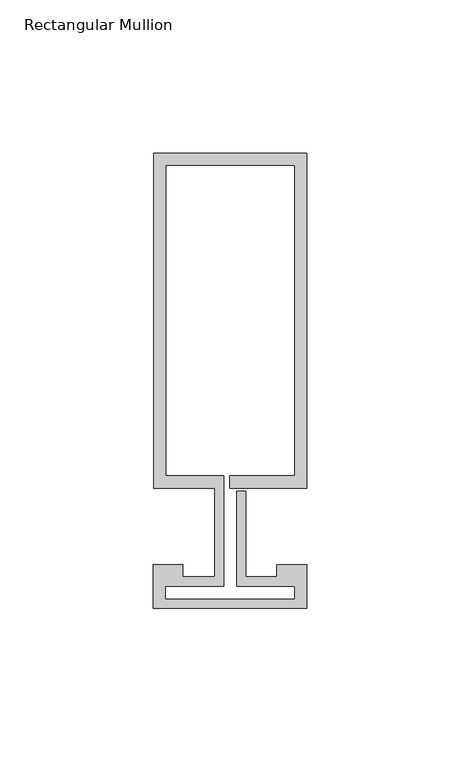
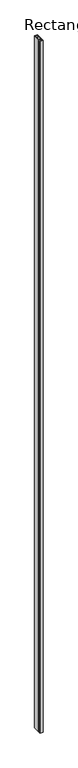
"""IFC4 building model written with IfcOpenShell, lengths in millimetres: member geometry, Rectangular Mullion : Reynaers_CW-50_Mullion-Transom_Horizontal_109.4mm_Facecap-02A."""

from ifc_helpers import new_model, si_unit, frame, origin, place, context, project, spatial, polyline, outline, extrude, source, transform, mapped, element, save


def rectangular_mullion_177b828d(model_context):
    return source(origin(), model_context, "Body", "SweptSolid", [
        extrude(outline(polyline([(-24.8004059, 121.9), (25.1995941, 121.9), (25.1995941, 12.5), (0.0, 12.5), (0.0, 16.5), (21.1995941, 16.5), (21.1995941, 117.9), (-20.8004059, 117.9), (-20.8004059, 16.5), (-1.9004059, 16.5), (-1.9004059, -19.5), (-20.994845, -19.5), (-20.994845, -23.7191338), (21.1995941, -23.7191338), (21.1995941, -19.5), (2.2995941, -19.5), (2.2995941, 11.5), (5.2995941, 11.5), (5.2995941, -16.5), (15.2996495, -16.5), (15.2996495, -12.5), (25.1995941, -12.5), (25.1995941, -26.8), (-24.994845, -26.8), (-24.994845, -12.5), (-15.2996495, -12.5), (-15.2996495, -16.5), (-4.9004059, -16.5), (-4.9004059, 12.5), (-24.8004059, 12.5), (-24.8004059, 121.9)])), frame((0.0, 0.0, -12000.0), z_axis=(0.0, 0.0, 1.0), x_axis=(1.0, 0.0, 0.0)), (0.0, 0.0, 1.0), 12000.0),
    ])


if __name__ == "__main__":
    model = new_model("IFC4")
    model_context = context("Model", 3, world=origin())
    ifc_project = project(units=[si_unit("LENGTHUNIT", "METRE", prefix="MILLI")], contexts=[model_context])
    site = spatial("IfcSite", under=ifc_project)
    building = spatial("IfcBuilding", under=site)
    placement = place(None, origin())
    rectangular_mullion_shape = rectangular_mullion_177b828d(model_context)
    element("IfcMember", 1, ObjectType="Rectangular Mullion : Reynaers_CW-50_Mullion-Transom_Horizontal_109.4mm_Facecap-02A", at=placement, inside=building, context=model_context, shape_type="MappedRepresentation", body=[
        mapped(rectangular_mullion_shape, transform((0.0, 0.0, 0.0), x_axis=(1.0, 0.0, 0.0), y_axis=(0.0, 1.0, 0.0), z_axis=(0.0, 0.0, 1.0))),
    ])
    save(model, "model.ifc")
